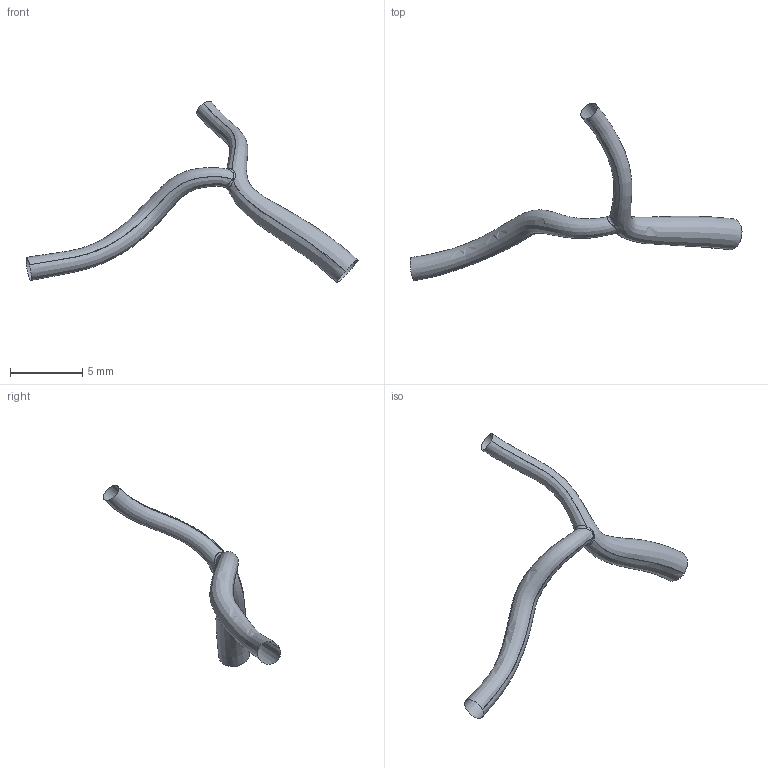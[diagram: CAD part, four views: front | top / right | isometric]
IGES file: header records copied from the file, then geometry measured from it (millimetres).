
Global section: file name: C:\Documents and Settings\Administrator\Desktop\FDA Bifurcation win\RawData_for_IGES\HRCA_Data\20001205.093751\IGES\20001205.093751.PDA.BIFUR.ED.igs; native system: Rhinoceros ( May 19 2006 ); preprocessor: Trout Lake IGES 012 May 19 2006; date: 100728.203955; units: centimetre
Bounding box: 23.04 x 12.31 x 12.57 mm (x, y, z)
Surface area: 180.8 mm2 (no closed solid volume)
Topology: 0 solids, 0 shells, 5 faces, 46 edges, 43 vertices
Faces by surface type: bspline 5
